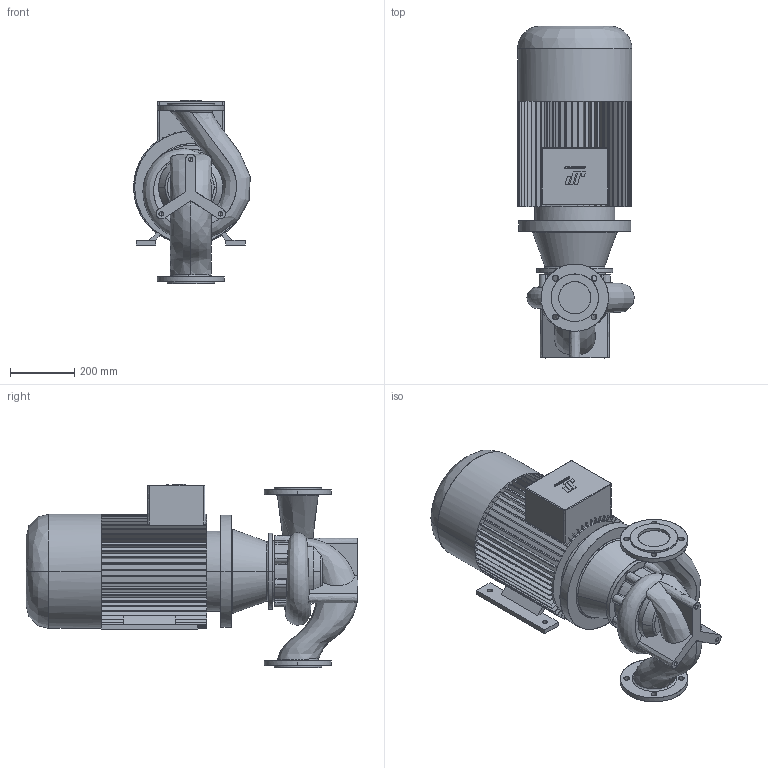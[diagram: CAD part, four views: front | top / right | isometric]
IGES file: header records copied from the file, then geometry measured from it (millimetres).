
Start section: CombiLine
Global section: file name: CLB_100-160_IEC180M.igs; native system:  By UGS Corp.; preprocessor: XPlus GENERIC/IGES 3.0; author: Stageplaats; organization: Johnson Pump Water B.V.; date: 20070716.085312; units: millimetre
Bounding box: 363.64 x 1035 x 571 mm (x, y, z)
Surface area: 2372254 mm2 (no closed solid volume)
Topology: 0 solids, 0 shells, 587 faces, 3569 edges, 3563 vertices
Faces by surface type: bspline 587
